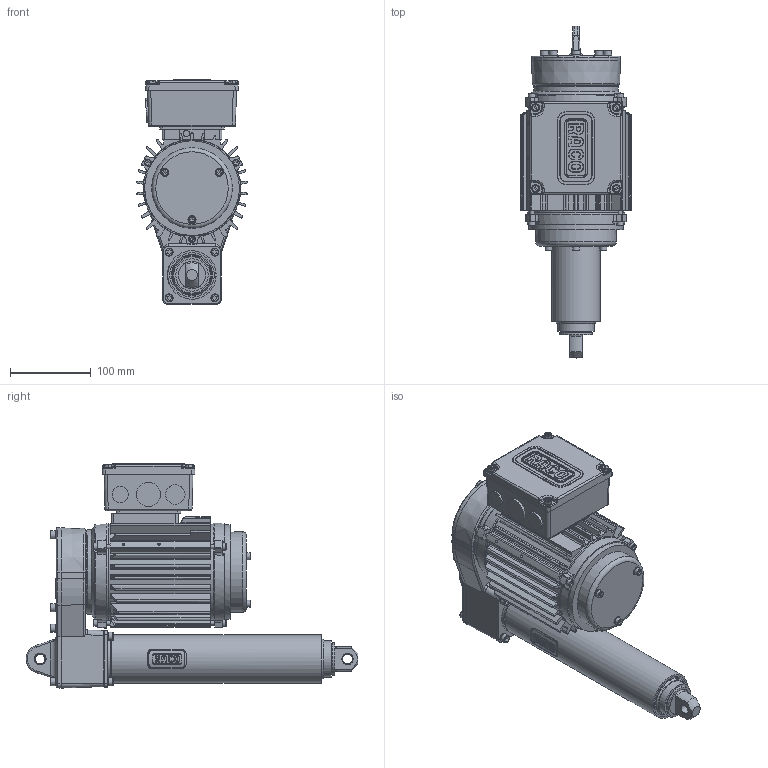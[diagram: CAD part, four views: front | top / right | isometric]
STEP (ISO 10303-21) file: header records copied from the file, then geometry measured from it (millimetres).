
FILE_DESCRIPTION(/* description */ ('Unknown'),/* implementation_level */ '2;1');
FILE_NAME(/* name */ 'T6C4-105-0200-160-263-2',/* time_stamp */ '2025-07-21T12:58:50+02:00',/* author */ ('Unknown'),/* organization */ ('Unknown'),/* preprocessor_version */ 'ST-DEVELOPER v19.4',/* originating_system */ 'Solid Edge',/* authorisation */ 'Unknown');
FILE_SCHEMA (('AUTOMOTIVE_DESIGN {1 0 10303 214 3 1 1}'));
Length unit declared in the file: millimetre
Products named in the file (9): T6C4-105-0200-160-263-2; 12.00-C4-105; 02.14-C4-0200; 01.01-C4_kpl_Gabelauge; Ex_Adapter-Alu; 71-B14_ohne; 10.20-04-11_alufarbig; 01.15-C4-0200; Klemmenkasten-Alu
Assembly tree (8 placements, depth 2):
  T6C4-105-0200-160-263-2
    12.00-C4-105
    02.14-C4-0200
    01.01-C4_kpl_Gabelauge
    Ex_Adapter-Alu
    71-B14_ohne
    10.20-04-11_alufarbig
    01.15-C4-0200
    Klemmenkasten-Alu
Bounding box: 136.56 x 410.68 x 277.3 mm (x, y, z)
Volume: 4629154.1 mm3; surface area: 448235.9 mm2
Topology: 9 solids, 17 shells, 1589 faces, 3788 edges, 2343 vertices
Faces by surface type: plane 721, cylinder 580, torus 133, cone 88, bspline 46, sphere 21
Full cylindrical faces by diameter (mm): 1 x20, 3 x2, 5 x6, 5.3 x4, 5.7 x3, 8 x1, 8.5 x9, 9.15 x3, 10 x17, 10.05 x10, 12 x2, 14 x4, 20 x1, 24 x1, 30 x1, 38.9 x1, 40 x1, 45 x2, 45.001 x1, 55.001 x1, 102 x1, 105 x1, 117 x1, 118 x1
Entity records: 55998 total; most frequent: CARTESIAN_POINT 9596, DIRECTION 7722, ORIENTED_EDGE 7066, EDGE_CURVE 3533, AXIS2_PLACEMENT_3D 2999, VERTEX_POINT 2281, FACE_BOUND 1908, EDGE_LOOP 1897
